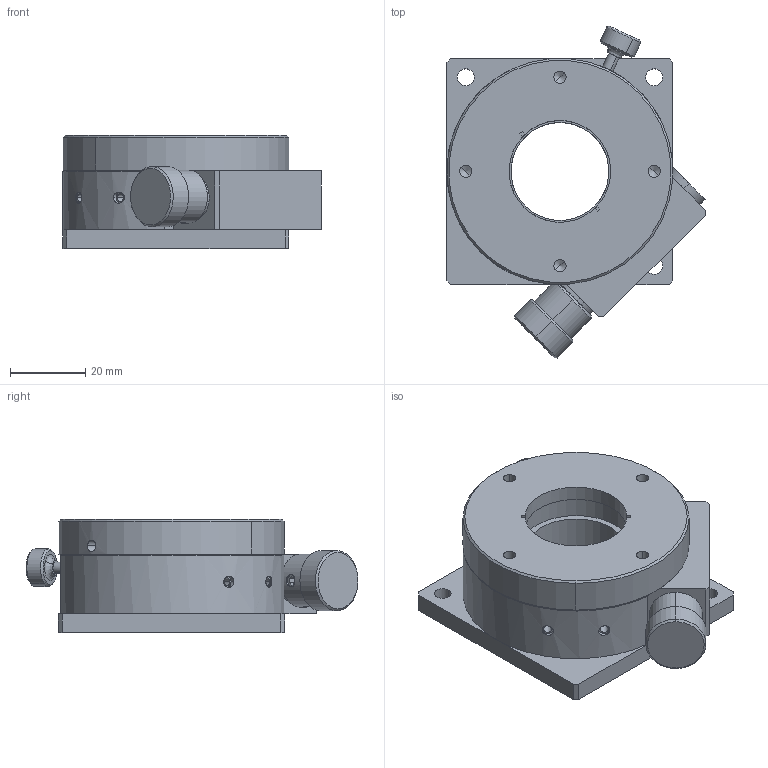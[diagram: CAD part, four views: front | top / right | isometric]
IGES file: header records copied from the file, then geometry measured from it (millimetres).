
Global section: file name: No Iges File Name specified; native system: AutoDesk Inventor R11.0; preprocessor: AutoDesk Inventor Iges Exporter R11.0; author: No Author specified; organization: No Organization specified; date: 20070406.172220; units: millimetre
Bounding box: 68.54 x 88.1 x 30 mm (x, y, z)
Volume: 75698.6 mm3; surface area: 34410 mm2
Topology: 32 solids, 34 shells, 583 faces, 1353 edges, 837 vertices
Faces by surface type: plane 184, bspline 153, cylinder 98, cone 62, revolution 56, sphere 24, torus 6
